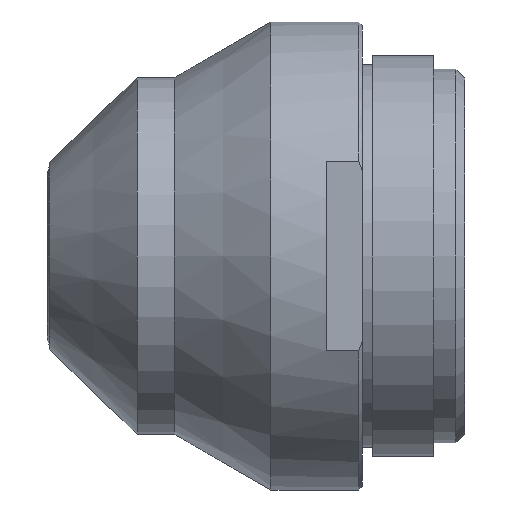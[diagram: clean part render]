
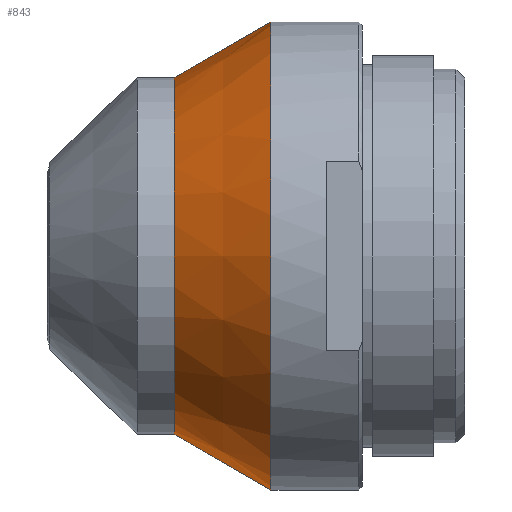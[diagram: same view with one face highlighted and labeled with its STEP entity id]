
A CAD part, left-side view. The second image highlights one B-rep face of the part: STEP entity #843.
In plain terms, the highlighted conical face has half-angle 30 degrees and reference radius 52.5 mm.
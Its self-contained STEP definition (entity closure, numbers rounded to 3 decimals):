
#33 = ORIENTED_EDGE ( 'NONE', *, *, #452, .F. ) ;
#129 = EDGE_CURVE ( 'NONE', #536, #400, #1301, .T. ) ;
#198 = CARTESIAN_POINT ( 'NONE',  ( 0., 43.5, 0. ) ) ;
#213 = EDGE_CURVE ( 'NONE', #550, #400, #383, .T. ) ;
#252 = EDGE_LOOP ( 'NONE', ( #33, #986, #491, #1122 ) ) ;
#301 = DIRECTION ( 'NONE',  ( 0., -1., 0. ) ) ;
#342 = CARTESIAN_POINT ( 'NONE',  ( 0., 43.5, -52.5 ) ) ;
#383 = CIRCLE ( 'NONE', #968, 52.5 ) ;
#400 = VERTEX_POINT ( 'NONE', #1192 ) ;
#437 = CARTESIAN_POINT ( 'NONE',  ( 0., 65.151, -40. ) ) ;
#452 = EDGE_CURVE ( 'NONE', #657, #550, #1304, .T. ) ;
#454 = DIRECTION ( 'NONE',  ( 0., -0.866, 0.5 ) ) ;
#487 = CIRCLE ( 'NONE', #1059, 40. ) ;
#491 = ORIENTED_EDGE ( 'NONE', *, *, #129, .T. ) ;
#536 = VERTEX_POINT ( 'NONE', #437 ) ;
#550 = VERTEX_POINT ( 'NONE', #861 ) ;
#567 = CARTESIAN_POINT ( 'NONE',  ( 0., 43.5, 0. ) ) ;
#587 = DIRECTION ( 'NONE',  ( 0., 0., -1. ) ) ;
#614 = CARTESIAN_POINT ( 'NONE',  ( 0., 65.151, 0. ) ) ;
#645 = VECTOR ( 'NONE', #454, 1000. ) ;
#657 = VERTEX_POINT ( 'NONE', #1327 ) ;
#707 = DIRECTION ( 'NONE',  ( 0., 0., -1. ) ) ;
#749 = EDGE_CURVE ( 'NONE', #657, #536, #487, .T. ) ;
#759 = CARTESIAN_POINT ( 'NONE',  ( 0., 43.5, 52.5 ) ) ;
#835 = CONICAL_SURFACE ( 'NONE', #1181, 52.5, 0.524 ) ;
#843 = ADVANCED_FACE ( 'NONE', ( #1282 ), #835, .T. ) ;
#861 = CARTESIAN_POINT ( 'NONE',  ( 0., 43.5, 52.5 ) ) ;
#871 = DIRECTION ( 'NONE',  ( 0., 0., -1. ) ) ;
#968 = AXIS2_PLACEMENT_3D ( 'NONE', #198, #301, #587 ) ;
#986 = ORIENTED_EDGE ( 'NONE', *, *, #749, .T. ) ;
#1025 = DIRECTION ( 'NONE',  ( 0., -1., 0. ) ) ;
#1059 = AXIS2_PLACEMENT_3D ( 'NONE', #614, #1025, #707 ) ;
#1107 = VECTOR ( 'NONE', #1314, 1000. ) ;
#1122 = ORIENTED_EDGE ( 'NONE', *, *, #213, .F. ) ;
#1164 = DIRECTION ( 'NONE',  ( 0., -1., 0. ) ) ;
#1181 = AXIS2_PLACEMENT_3D ( 'NONE', #567, #1164, #871 ) ;
#1192 = CARTESIAN_POINT ( 'NONE',  ( 0., 43.5, -52.5 ) ) ;
#1282 = FACE_OUTER_BOUND ( 'NONE', #252, .T. ) ;
#1301 = LINE ( 'NONE', #342, #1107 ) ;
#1304 = LINE ( 'NONE', #759, #645 ) ;
#1314 = DIRECTION ( 'NONE',  ( 0., -0.866, -0.5 ) ) ;
#1327 = CARTESIAN_POINT ( 'NONE',  ( 0., 65.151, 40. ) ) ;
